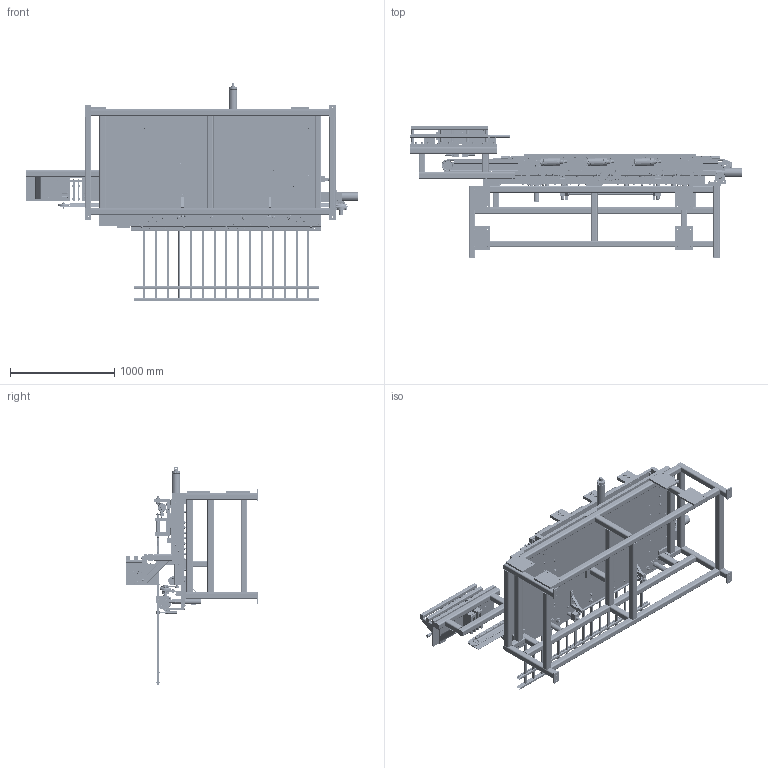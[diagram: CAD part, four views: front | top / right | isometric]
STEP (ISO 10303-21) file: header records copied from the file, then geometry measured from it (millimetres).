
FILE_DESCRIPTION(/* description */ ('Alibre Inc.'),/* implementation_level */ '2;1');
FILE_NAME(/* name */ 'export0',/* time_stamp */ '2010-03-01T16:49:09-06:00',/* author */ (''),/* organization */ (''),/* preprocessor_version */ 'ST-DEVELOPER v12',/* originating_system */ 'Alibre',/* authorisation */ '');
FILE_SCHEMA (('AUTOMOTIVE_DESIGN'));
Length unit declared in the file: inch
Products named in the file (262): SPAC903-299; SPAC903-280; SPAC903-282; PURCHASED; STOCK; SPAC903-018; spac903-279; SPAC903-283; SPAC903-287; SPAC903-16; SPAC904-285; SPAC903-286; SPAC903-281 ; SPAC903-288; PHURCHASED; SPAC902-292; SPAC903-291; SPAC903-289; SPAC903-290; .500-13 UNC x 3.00 ; .500D x 2.00; SPAC903-301; SPAC903-302; SPAC903-017; SPAC903-293; SPAC903-295; SPAC903-294; SPAC903-296; SPAC903-297; .250-28 UNF; SPAC903-298; .188 X.75; SPAC903-365; SPC903-019; SPAC900-904; SPAC900-901E; SPAC900-E-48 NON-POOL; SPAC903-217; SPAC903-216; SPAC903-214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
Bounding box: 3191.89 x 1273.3 x 2097.15 mm (x, y, z)
Volume: 236137358.7 mm3; surface area: 38692912 mm2
Topology: 1873 solids, 1873 shells, 40340 faces, 90376 edges, 55509 vertices
Faces by surface type: plane 19578, cylinder 9520, cone 8995, torus 1231, bspline 980, sphere 36
Full cylindrical faces by diameter (mm): 2.54 x3, 3.5 x30, 3.531 x4, 3.937 x60, 3.962 x45, 4.166 x84, 4.674 x42, 4.75 x8, 4.763 x16, 4.775 x12, 4.801 x38, 4.826 x47, 4.978 x122, 5.08 x9, 5.258 x153, 5.588 x17, 5.613 x135, 6 x30, 6.35 x235, 6.375 x14, 6.401 x24, 6.528 x2, 6.731 x40, 6.747 x8, 6.756 x8, 7 x42, 7.036 x2, 7.112 x38, 7.137 x207, 7.798 x83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
Entity records: 232460 total; most frequent: CARTESIAN_POINT 53968, DIRECTION 37127, ORIENTED_EDGE 29646, AXIS2_PLACEMENT_3D 16471, EDGE_CURVE 14821, FACE_BOUND 11085, EDGE_LOOP 10991, VERTEX_POINT 10673
